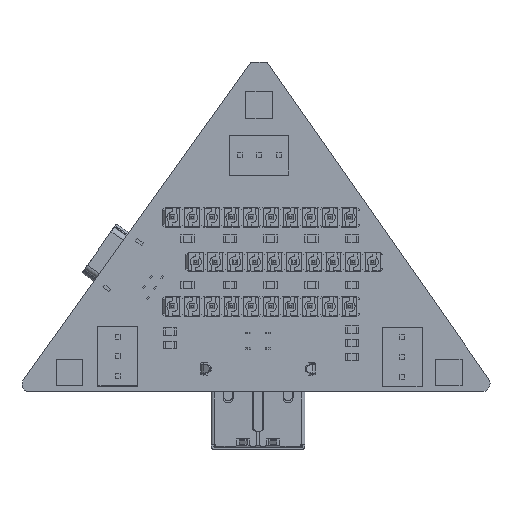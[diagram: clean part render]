
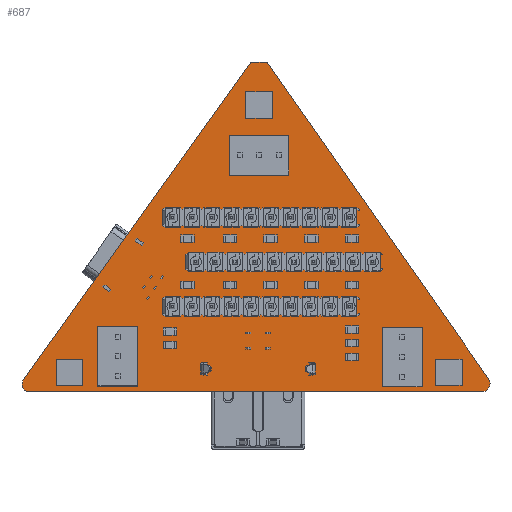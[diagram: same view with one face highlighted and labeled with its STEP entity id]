
A CAD part, top view. The second image highlights one B-rep face of the part: STEP entity #687.
In plain terms, the highlighted planar face has unit normal (0, 0, 1).
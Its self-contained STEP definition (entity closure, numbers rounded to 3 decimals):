
#199 = VERTEX_POINT('',#200);
#200 = CARTESIAN_POINT('',(36.5,25.,1.646));
#207 = CYLINDRICAL_SURFACE('',#208,1.049);
#208 = AXIS2_PLACEMENT_3D('',#209,#210,#211);
#209 = CARTESIAN_POINT('',(36.948,25.948,0.));
#210 = DIRECTION('',(0.,0.,-1.));
#211 = DIRECTION('',(-0.427,-0.904,0.));
#219 = PLANE('',#220);
#220 = AXIS2_PLACEMENT_3D('',#221,#222,#223);
#221 = CARTESIAN_POINT('',(95.5,25.,0.));
#222 = DIRECTION('',(0.,-1.,0.));
#223 = DIRECTION('',(-1.,0.,0.));
#231 = EDGE_CURVE('',#199,#232,#234,.T.);
#232 = VERTEX_POINT('',#233);
#233 = CARTESIAN_POINT('',(36.,26.397,1.646));
#234 = SURFACE_CURVE('',#235,(#240,#247),.PCURVE_S1.);
#235 = CIRCLE('',#236,1.049);
#236 = AXIS2_PLACEMENT_3D('',#237,#238,#239);
#237 = CARTESIAN_POINT('',(36.948,25.948,1.646));
#238 = DIRECTION('',(0.,0.,-1.));
#239 = DIRECTION('',(-0.427,-0.904,0.));
#240 = PCURVE('',#207,#241);
#241 = DEFINITIONAL_REPRESENTATION('',(#242),#246);
#242 = LINE('',#243,#244);
#243 = CARTESIAN_POINT('',(0.,-1.646));
#244 = VECTOR('',#245,1.);
#245 = DIRECTION('',(1.,0.));
#246 = ( GEOMETRIC_REPRESENTATION_CONTEXT(2) 
PARAMETRIC_REPRESENTATION_CONTEXT() REPRESENTATION_CONTEXT('2D SPACE',''
  ) );
#247 = PCURVE('',#248,#253);
#248 = PLANE('',#249);
#249 = AXIS2_PLACEMENT_3D('',#250,#251,#252);
#250 = CARTESIAN_POINT('',(36.5,25.,1.646));
#251 = DIRECTION('',(0.,0.,1.));
#252 = DIRECTION('',(1.,0.,0.));
#253 = DEFINITIONAL_REPRESENTATION('',(#254),#262);
#254 = ( BOUNDED_CURVE() B_SPLINE_CURVE(2,(#255,#256,#257,#258,#259,#260
,#261),.UNSPECIFIED.,.F.,.F.) B_SPLINE_CURVE_WITH_KNOTS((1,2,2,2,2,1),(
    -2.094,0.,2.094,4.189,6.283,
8.378),.UNSPECIFIED.) CURVE() GEOMETRIC_REPRESENTATION_ITEM() 
RATIONAL_B_SPLINE_CURVE((1.,0.5,1.,0.5,1.,0.5,1.)) REPRESENTATION_ITEM(
  '') );
#255 = CARTESIAN_POINT('',(0.,0.));
#256 = CARTESIAN_POINT('',(-1.643,0.777));
#257 = CARTESIAN_POINT('',(-0.149,1.811));
#258 = CARTESIAN_POINT('',(1.345,2.845));
#259 = CARTESIAN_POINT('',(1.494,1.034));
#260 = CARTESIAN_POINT('',(1.643,-0.777));
#261 = CARTESIAN_POINT('',(0.,0.));
#262 = ( GEOMETRIC_REPRESENTATION_CONTEXT(2) 
PARAMETRIC_REPRESENTATION_CONTEXT() REPRESENTATION_CONTEXT('2D SPACE',''
  ) );
#280 = PLANE('',#281);
#281 = AXIS2_PLACEMENT_3D('',#282,#283,#284);
#282 = CARTESIAN_POINT('',(36.,26.397,0.));
#283 = DIRECTION('',(-0.813,0.582,0.));
#284 = DIRECTION('',(0.582,0.813,0.));
#327 = EDGE_CURVE('',#232,#328,#330,.T.);
#328 = VERTEX_POINT('',#329);
#329 = CARTESIAN_POINT('',(65.426,67.5,1.646));
#330 = SURFACE_CURVE('',#331,(#335,#342),.PCURVE_S1.);
#331 = LINE('',#332,#333);
#332 = CARTESIAN_POINT('',(36.,26.397,1.646));
#333 = VECTOR('',#334,1.);
#334 = DIRECTION('',(0.582,0.813,0.));
#335 = PCURVE('',#280,#336);
#336 = DEFINITIONAL_REPRESENTATION('',(#337),#341);
#337 = LINE('',#338,#339);
#338 = CARTESIAN_POINT('',(0.,-1.646));
#339 = VECTOR('',#340,1.);
#340 = DIRECTION('',(1.,0.));
#341 = ( GEOMETRIC_REPRESENTATION_CONTEXT(2) 
PARAMETRIC_REPRESENTATION_CONTEXT() REPRESENTATION_CONTEXT('2D SPACE',''
  ) );
#342 = PCURVE('',#248,#343);
#343 = DEFINITIONAL_REPRESENTATION('',(#344),#348);
#344 = LINE('',#345,#346);
#345 = CARTESIAN_POINT('',(-0.5,1.397));
#346 = VECTOR('',#347,1.);
#347 = DIRECTION('',(0.582,0.813));
#348 = ( GEOMETRIC_REPRESENTATION_CONTEXT(2) 
PARAMETRIC_REPRESENTATION_CONTEXT() REPRESENTATION_CONTEXT('2D SPACE',''
  ) );
#366 = PLANE('',#367);
#367 = AXIS2_PLACEMENT_3D('',#368,#369,#370);
#368 = CARTESIAN_POINT('',(65.426,67.5,0.));
#369 = DIRECTION('',(0.,1.,0.));
#370 = DIRECTION('',(1.,0.,0.));
#403 = EDGE_CURVE('',#328,#404,#406,.T.);
#404 = VERTEX_POINT('',#405);
#405 = CARTESIAN_POINT('',(67.557,67.5,1.646));
#406 = SURFACE_CURVE('',#407,(#411,#418),.PCURVE_S1.);
#407 = LINE('',#408,#409);
#408 = CARTESIAN_POINT('',(65.426,67.5,1.646));
#409 = VECTOR('',#410,1.);
#410 = DIRECTION('',(1.,0.,0.));
#411 = PCURVE('',#366,#412);
#412 = DEFINITIONAL_REPRESENTATION('',(#413),#417);
#413 = LINE('',#414,#415);
#414 = CARTESIAN_POINT('',(0.,-1.646));
#415 = VECTOR('',#416,1.);
#416 = DIRECTION('',(1.,0.));
#417 = ( GEOMETRIC_REPRESENTATION_CONTEXT(2) 
PARAMETRIC_REPRESENTATION_CONTEXT() REPRESENTATION_CONTEXT('2D SPACE',''
  ) );
#418 = PCURVE('',#248,#419);
#419 = DEFINITIONAL_REPRESENTATION('',(#420),#424);
#420 = LINE('',#421,#422);
#421 = CARTESIAN_POINT('',(28.926,42.5));
#422 = VECTOR('',#423,1.);
#423 = DIRECTION('',(1.,0.));
#424 = ( GEOMETRIC_REPRESENTATION_CONTEXT(2) 
PARAMETRIC_REPRESENTATION_CONTEXT() REPRESENTATION_CONTEXT('2D SPACE',''
  ) );
#442 = PLANE('',#443);
#443 = AXIS2_PLACEMENT_3D('',#444,#445,#446);
#444 = CARTESIAN_POINT('',(67.557,67.5,0.));
#445 = DIRECTION('',(0.819,0.573,0.));
#446 = DIRECTION('',(0.573,-0.819,0.));
#479 = EDGE_CURVE('',#404,#480,#482,.T.);
#480 = VERTEX_POINT('',#481);
#481 = CARTESIAN_POINT('',(96.25,26.5,1.646));
#482 = SURFACE_CURVE('',#483,(#487,#494),.PCURVE_S1.);
#483 = LINE('',#484,#485);
#484 = CARTESIAN_POINT('',(67.557,67.5,1.646));
#485 = VECTOR('',#486,1.);
#486 = DIRECTION('',(0.573,-0.819,0.));
#487 = PCURVE('',#442,#488);
#488 = DEFINITIONAL_REPRESENTATION('',(#489),#493);
#489 = LINE('',#490,#491);
#490 = CARTESIAN_POINT('',(0.,-1.646));
#491 = VECTOR('',#492,1.);
#492 = DIRECTION('',(1.,0.));
#493 = ( GEOMETRIC_REPRESENTATION_CONTEXT(2) 
PARAMETRIC_REPRESENTATION_CONTEXT() REPRESENTATION_CONTEXT('2D SPACE',''
  ) );
#494 = PCURVE('',#248,#495);
#495 = DEFINITIONAL_REPRESENTATION('',(#496),#500);
#496 = LINE('',#497,#498);
#497 = CARTESIAN_POINT('',(31.057,42.5));
#498 = VECTOR('',#499,1.);
#499 = DIRECTION('',(0.573,-0.819));
#500 = ( GEOMETRIC_REPRESENTATION_CONTEXT(2) 
PARAMETRIC_REPRESENTATION_CONTEXT() REPRESENTATION_CONTEXT('2D SPACE',''
  ) );
#518 = CYLINDRICAL_SURFACE('',#519,1.186);
#519 = AXIS2_PLACEMENT_3D('',#520,#521,#522);
#520 = CARTESIAN_POINT('',(95.125,26.125,0.));
#521 = DIRECTION('',(0.,0.,-1.));
#522 = DIRECTION('',(0.949,0.316,0.));
#555 = EDGE_CURVE('',#480,#556,#558,.T.);
#556 = VERTEX_POINT('',#557);
#557 = CARTESIAN_POINT('',(95.5,25.,1.646));
#558 = SURFACE_CURVE('',#559,(#564,#571),.PCURVE_S1.);
#559 = CIRCLE('',#560,1.186);
#560 = AXIS2_PLACEMENT_3D('',#561,#562,#563);
#561 = CARTESIAN_POINT('',(95.125,26.125,1.646));
#562 = DIRECTION('',(0.,0.,-1.));
#563 = DIRECTION('',(0.949,0.316,0.));
#564 = PCURVE('',#518,#565);
#565 = DEFINITIONAL_REPRESENTATION('',(#566),#570);
#566 = LINE('',#567,#568);
#567 = CARTESIAN_POINT('',(0.,-1.646));
#568 = VECTOR('',#569,1.);
#569 = DIRECTION('',(1.,0.));
#570 = ( GEOMETRIC_REPRESENTATION_CONTEXT(2) 
PARAMETRIC_REPRESENTATION_CONTEXT() REPRESENTATION_CONTEXT('2D SPACE',''
  ) );
#571 = PCURVE('',#248,#572);
#572 = DEFINITIONAL_REPRESENTATION('',(#573),#581);
#573 = ( BOUNDED_CURVE() B_SPLINE_CURVE(2,(#574,#575,#576,#577,#578,#579
,#580),.UNSPECIFIED.,.T.,.F.) B_SPLINE_CURVE_WITH_KNOTS((1,2,2,2,2,1),(
    -2.094,0.,2.094,4.189,6.283,
8.378),.UNSPECIFIED.) CURVE() GEOMETRIC_REPRESENTATION_ITEM() 
RATIONAL_B_SPLINE_CURVE((1.,0.5,1.,0.5,1.,0.5,1.)) REPRESENTATION_ITEM(
  '') );
#574 = CARTESIAN_POINT('',(59.75,1.5));
#575 = CARTESIAN_POINT('',(60.4,-0.449));
#576 = CARTESIAN_POINT('',(58.387,-0.037));
#577 = CARTESIAN_POINT('',(56.375,0.375));
#578 = CARTESIAN_POINT('',(57.738,1.912));
#579 = CARTESIAN_POINT('',(59.1,3.449));
#580 = CARTESIAN_POINT('',(59.75,1.5));
#581 = ( GEOMETRIC_REPRESENTATION_CONTEXT(2) 
PARAMETRIC_REPRESENTATION_CONTEXT() REPRESENTATION_CONTEXT('2D SPACE',''
  ) );
#636 = EDGE_CURVE('',#556,#199,#637,.T.);
#637 = SURFACE_CURVE('',#638,(#642,#649),.PCURVE_S1.);
#638 = LINE('',#639,#640);
#639 = CARTESIAN_POINT('',(95.5,25.,1.646));
#640 = VECTOR('',#641,1.);
#641 = DIRECTION('',(-1.,0.,0.));
#642 = PCURVE('',#219,#643);
#643 = DEFINITIONAL_REPRESENTATION('',(#644),#648);
#644 = LINE('',#645,#646);
#645 = CARTESIAN_POINT('',(0.,-1.646));
#646 = VECTOR('',#647,1.);
#647 = DIRECTION('',(1.,0.));
#648 = ( GEOMETRIC_REPRESENTATION_CONTEXT(2) 
PARAMETRIC_REPRESENTATION_CONTEXT() REPRESENTATION_CONTEXT('2D SPACE',''
  ) );
#649 = PCURVE('',#248,#650);
#650 = DEFINITIONAL_REPRESENTATION('',(#651),#655);
#651 = LINE('',#652,#653);
#652 = CARTESIAN_POINT('',(59.,0.));
#653 = VECTOR('',#654,1.);
#654 = DIRECTION('',(-1.,0.));
#655 = ( GEOMETRIC_REPRESENTATION_CONTEXT(2) 
PARAMETRIC_REPRESENTATION_CONTEXT() REPRESENTATION_CONTEXT('2D SPACE',''
  ) );
#687 = ADVANCED_FACE('',(#688),#248,.T.);
#688 = FACE_BOUND('',#689,.F.);
#689 = EDGE_LOOP('',(#690,#691,#692,#693,#694,#695));
#690 = ORIENTED_EDGE('',*,*,#231,.T.);
#691 = ORIENTED_EDGE('',*,*,#327,.T.);
#692 = ORIENTED_EDGE('',*,*,#403,.T.);
#693 = ORIENTED_EDGE('',*,*,#479,.T.);
#694 = ORIENTED_EDGE('',*,*,#555,.T.);
#695 = ORIENTED_EDGE('',*,*,#636,.T.);
